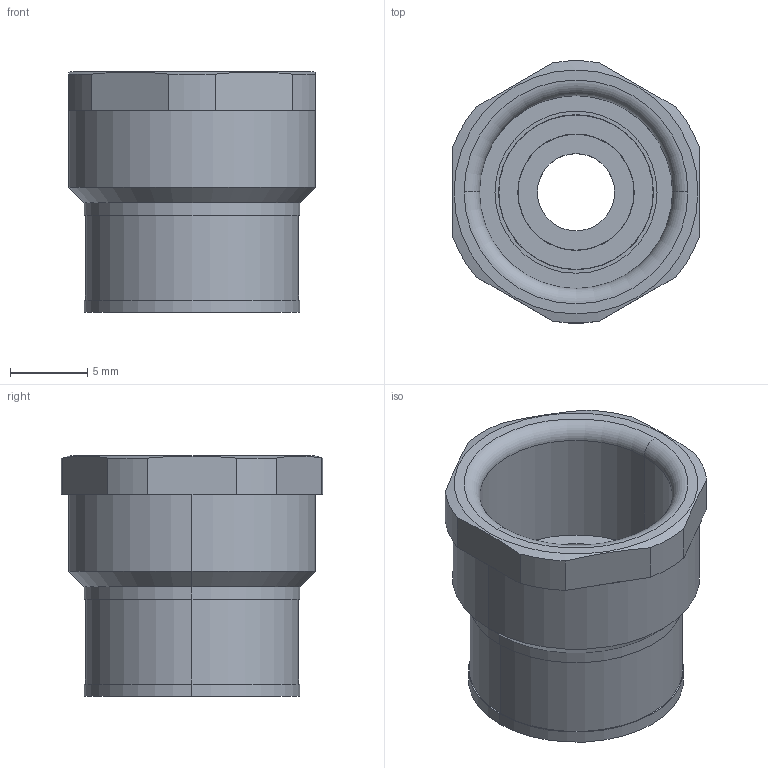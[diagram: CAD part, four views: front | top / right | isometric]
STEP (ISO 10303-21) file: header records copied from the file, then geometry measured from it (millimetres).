
FILE_DESCRIPTION (( 'STEP AP203' ), '1' );
FILE_NAME ('8MxxUG.STEP', '2006-07-31T05:55:24', ( ' ' ), ( '' ), 'SwSTEP 2.0', 'SolidWorks 2005278', '' );
FILE_SCHEMA (( 'CONFIG_CONTROL_DESIGN' ));
Length unit declared in the file: millimetre
Products named in the file (1): 8MxxUG
Bounding box: 16 x 16.97 x 15.6 mm (x, y, z)
Volume: 1483.1 mm3; surface area: 2059.9 mm2
Topology: 1 solids, 1 shells, 97 faces, 234 edges, 152 vertices
Faces by surface type: plane 61, cylinder 30, cone 4, torus 2
Entity records: 2917 total; most frequent: CARTESIAN_POINT 512, DIRECTION 494, ORIENTED_EDGE 468, EDGE_CURVE 234, AXIS2_PLACEMENT_3D 170, VECTOR 154, LINE 154, VERTEX_POINT 152
